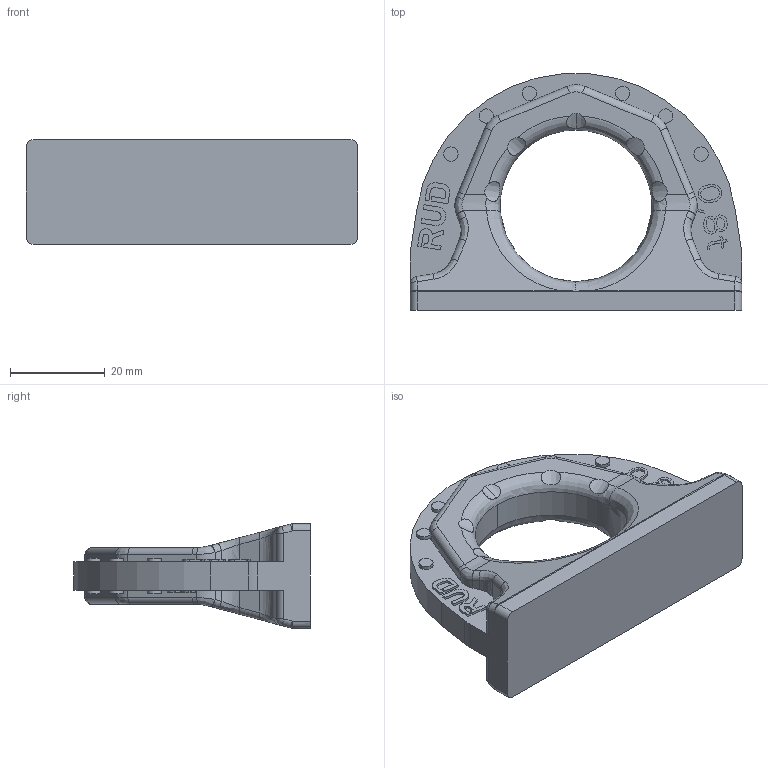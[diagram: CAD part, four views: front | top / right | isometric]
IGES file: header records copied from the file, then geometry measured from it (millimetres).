
Start section:  PTC IGES file: aba_0_8t_igs.igs
Global section: file name: aba_0_8t_igs.igs; native system: Pro/ENGINEER by Parametric Technology Corporation; preprocessor: 2011490; author: Marcel.Bux; organization: Unknown; date: 20161018.150700; units: millimetre
Bounding box: 70 x 49.88 x 22 mm (x, y, z)
Volume: 27466.9 mm3; surface area: 9177.6 mm2
Topology: 1 solids, 1 shells, 447 faces, 1186 edges, 766 vertices
Faces by surface type: bspline 340, revolution 107
